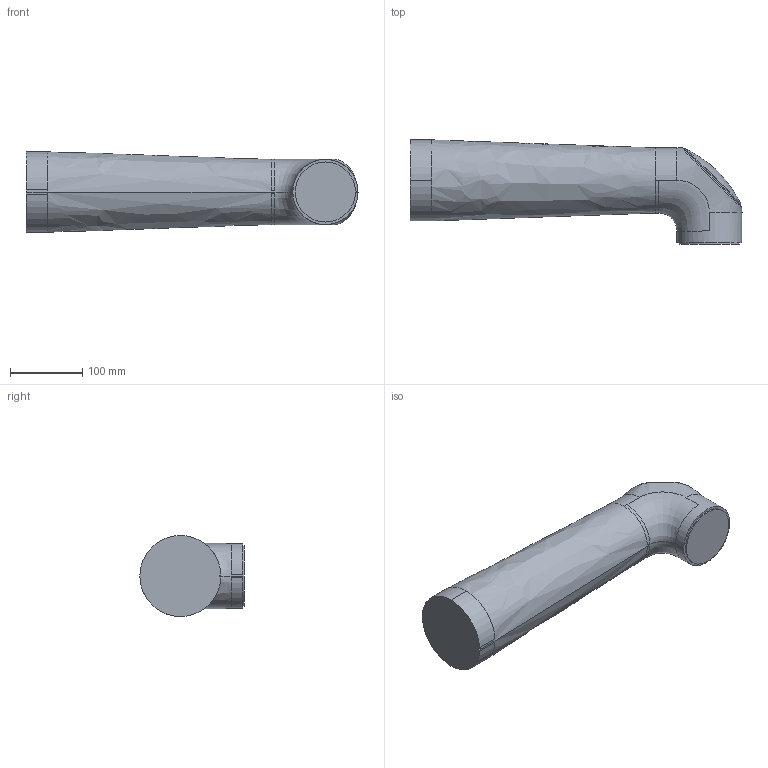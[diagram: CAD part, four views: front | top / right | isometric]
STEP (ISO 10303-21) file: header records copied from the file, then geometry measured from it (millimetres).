
FILE_DESCRIPTION (( 'STEP AP214' ), '1' );
FILE_NAME ('CRB1910_13kg-1340_OmniCore_rev00_Link4.step', '2026-03-26T03:33:59', ( '' ), ( '' ), 'SwSTEP 2.0', 'SolidWorks 2022', '' );
FILE_SCHEMA (( 'AUTOMOTIVE_DESIGN' ));
Length unit declared in the file: millimetre
Products named in the file (1): CRB1910_13kg-1340_OmniCore_rev00_Link4
Bounding box: 459.06 x 144.08 x 112 mm (x, y, z)
Volume: 3693649 mm3; surface area: 167767.9 mm2
Topology: 1 solids, 1 shells, 405 faces, 1069 edges, 697 vertices
Faces by surface type: bspline 358, plane 28, cylinder 17, cone 2
Entity records: 59086 total; most frequent: CARTESIAN_POINT 51648, ORIENTED_EDGE 2134, EDGE_CURVE 1067, B_SPLINE_CURVE_WITH_KNOTS 954, VERTEX_POINT 697, EDGE_LOOP 438, FACE_OUTER_BOUND 405, ADVANCED_FACE 405
